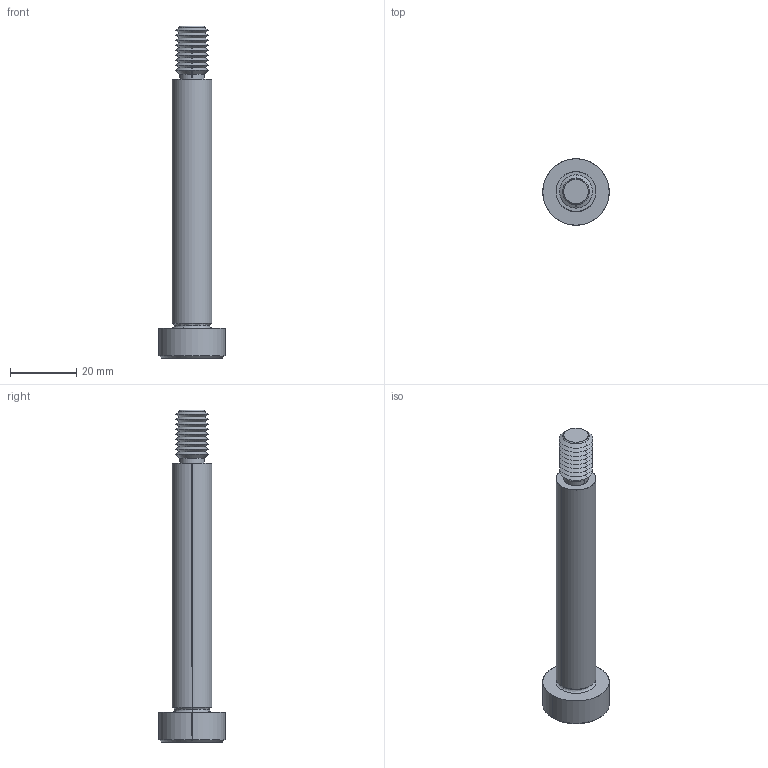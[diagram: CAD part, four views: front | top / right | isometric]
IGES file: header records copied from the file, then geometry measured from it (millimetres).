
Start section: SolidWorks IGES file using analytic representation for surfaces
Global section: file name: C:\Users\IanO\Documents\Temp Folder\GENERAL\SCREW REVISION\P0130_v2\P0130.T5_v2_20220106_IGES\P0130.120-075-T5.igs; native system: SolidWorks 2019; preprocessor: SolidWorks 2019; author: IanO; date: 220106.225115; units: millimetre
Bounding box: 20 x 20 x 100 mm (x, y, z)
Surface area: 4944.7 mm2 (no closed solid volume)
Topology: 0 solids, 0 shells, 76 faces, 564 edges, 562 vertices
Faces by surface type: revolution 56, bspline 20
